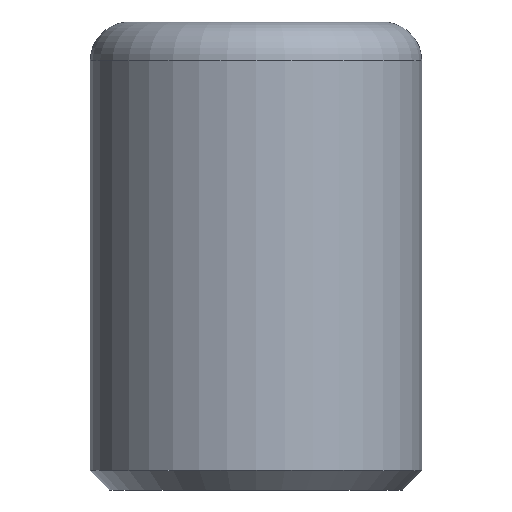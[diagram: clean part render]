
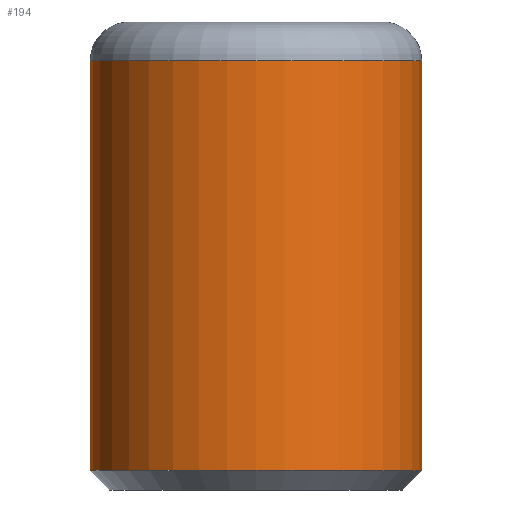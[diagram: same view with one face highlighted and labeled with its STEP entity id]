
A CAD part, front view. The second image highlights one B-rep face of the part: STEP entity #194.
In plain terms, the highlighted cylindrical face has radius 8.5 mm (diameter 17 mm), a full revolution.
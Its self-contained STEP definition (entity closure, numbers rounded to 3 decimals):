
#167=CARTESIAN_POINT('',(0.0,0.0,24.0));
#168=DIRECTION('',(0.0,0.0,-1.0));
#169=DIRECTION('',(-1.0,0.0,0.0));
#170=AXIS2_PLACEMENT_3D('',#167,#168,#169);
#171=CYLINDRICAL_SURFACE('',#170,8.5);
#172=CARTESIAN_POINT('',(8.5,0.0,1.));
#173=VERTEX_POINT('',#172);
#174=CARTESIAN_POINT('',(0.0,0.0,1.));
#175=DIRECTION('',(0.0,0.0,1.0));
#176=DIRECTION('',(1.0,0.0,0.0));
#177=AXIS2_PLACEMENT_3D('',#174,#175,#176);
#178=CIRCLE('',#177,8.5);
#179=EDGE_CURVE('',#173,#173,#178,.T.);
#180=ORIENTED_EDGE('',*,*,#179,.T.);
#181=EDGE_LOOP('',(#180));
#182=FACE_BOUND('',#181,.T.);
#183=CARTESIAN_POINT('',(8.5,0.0,22.0));
#184=VERTEX_POINT('',#183);
#185=CARTESIAN_POINT('',(0.0,0.0,22.0));
#186=DIRECTION('',(0.0,0.0,1.0));
#187=DIRECTION('',(1.0,0.0,0.0));
#188=AXIS2_PLACEMENT_3D('',#185,#186,#187);
#189=CIRCLE('',#188,8.5);
#190=EDGE_CURVE('',#184,#184,#189,.F.);
#191=ORIENTED_EDGE('',*,*,#190,.T.);
#192=EDGE_LOOP('',(#191));
#193=FACE_BOUND('',#192,.T.);
#194=ADVANCED_FACE('',(#182,#193),#171,.T.);
